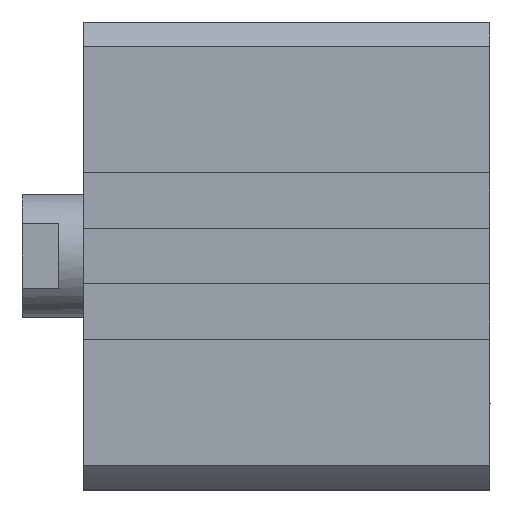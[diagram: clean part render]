
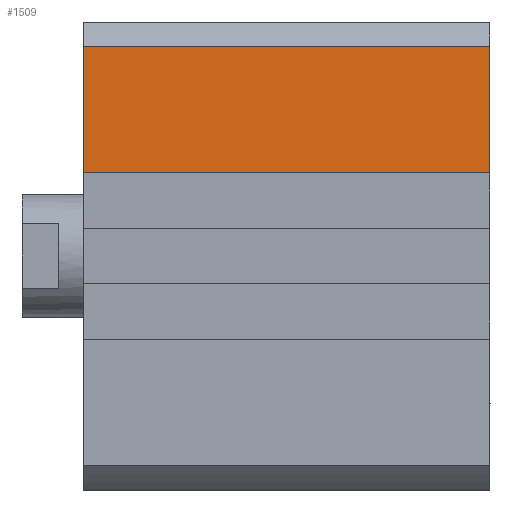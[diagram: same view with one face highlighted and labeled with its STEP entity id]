
A CAD part, left-side view. The second image highlights one B-rep face of the part: STEP entity #1509.
In plain terms, the highlighted planar face has unit normal (-1, 0, 0).
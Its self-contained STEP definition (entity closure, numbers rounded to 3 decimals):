
#27 = FACE_OUTER_BOUND ( 'NONE', #903, .T. ) ;
#61 = VECTOR ( 'NONE', #2298, 1000. ) ;
#188 = CARTESIAN_POINT ( 'NONE',  ( -38., -66., 0. ) ) ;
#241 = ORIENTED_EDGE ( 'NONE', *, *, #1457, .T. ) ;
#409 = EDGE_CURVE ( 'NONE', #1960, #2856, #2883, .T. ) ;
#658 = VERTEX_POINT ( 'NONE', #3204 ) ;
#680 = DIRECTION ( 'NONE',  ( 0., 0., 1. ) ) ;
#743 = PLANE ( 'NONE',  #3374 ) ;
#824 = LINE ( 'NONE', #2285, #61 ) ;
#871 = VECTOR ( 'NONE', #2865, 1000. ) ;
#903 = EDGE_LOOP ( 'NONE', ( #2376, #1213, #241, #2704 ) ) ;
#953 = DIRECTION ( 'NONE',  ( 0., 0., 1. ) ) ;
#1015 = CARTESIAN_POINT ( 'NONE',  ( -38., 0., 34.015 ) ) ;
#1110 = LINE ( 'NONE', #3163, #871 ) ;
#1213 = ORIENTED_EDGE ( 'NONE', *, *, #2048, .F. ) ;
#1339 = CARTESIAN_POINT ( 'NONE',  ( -38., -66., 13.5 ) ) ;
#1457 = EDGE_CURVE ( 'NONE', #2093, #1960, #3118, .T. ) ;
#1509 = ADVANCED_FACE ( 'NONE', ( #27 ), #743, .T. ) ;
#1673 = VECTOR ( 'NONE', #680, 1000. ) ;
#1782 = VECTOR ( 'NONE', #3350, 1000. ) ;
#1960 = VERTEX_POINT ( 'NONE', #2963 ) ;
#2048 = EDGE_CURVE ( 'NONE', #2093, #658, #1110, .T. ) ;
#2093 = VERTEX_POINT ( 'NONE', #1339 ) ;
#2285 = CARTESIAN_POINT ( 'NONE',  ( -38., 0., 0. ) ) ;
#2295 = DIRECTION ( 'NONE',  ( -1., 0., 0. ) ) ;
#2298 = DIRECTION ( 'NONE',  ( 0., 0., 1. ) ) ;
#2376 = ORIENTED_EDGE ( 'NONE', *, *, #2758, .F. ) ;
#2704 = ORIENTED_EDGE ( 'NONE', *, *, #409, .T. ) ;
#2758 = EDGE_CURVE ( 'NONE', #658, #2856, #824, .T. ) ;
#2856 = VERTEX_POINT ( 'NONE', #1015 ) ;
#2865 = DIRECTION ( 'NONE',  ( 0., 1., 0. ) ) ;
#2883 = LINE ( 'NONE', #3073, #1782 ) ;
#2963 = CARTESIAN_POINT ( 'NONE',  ( -38., -66., 34.015 ) ) ;
#3073 = CARTESIAN_POINT ( 'NONE',  ( -38., -66., 34.015 ) ) ;
#3118 = LINE ( 'NONE', #188, #1673 ) ;
#3163 = CARTESIAN_POINT ( 'NONE',  ( -38., -66., 13.5 ) ) ;
#3204 = CARTESIAN_POINT ( 'NONE',  ( -38., 0., 13.5 ) ) ;
#3313 = CARTESIAN_POINT ( 'NONE',  ( -38., -66., 0. ) ) ;
#3350 = DIRECTION ( 'NONE',  ( 0., 1., 0. ) ) ;
#3374 = AXIS2_PLACEMENT_3D ( 'NONE', #3313, #2295, #953 ) ;
